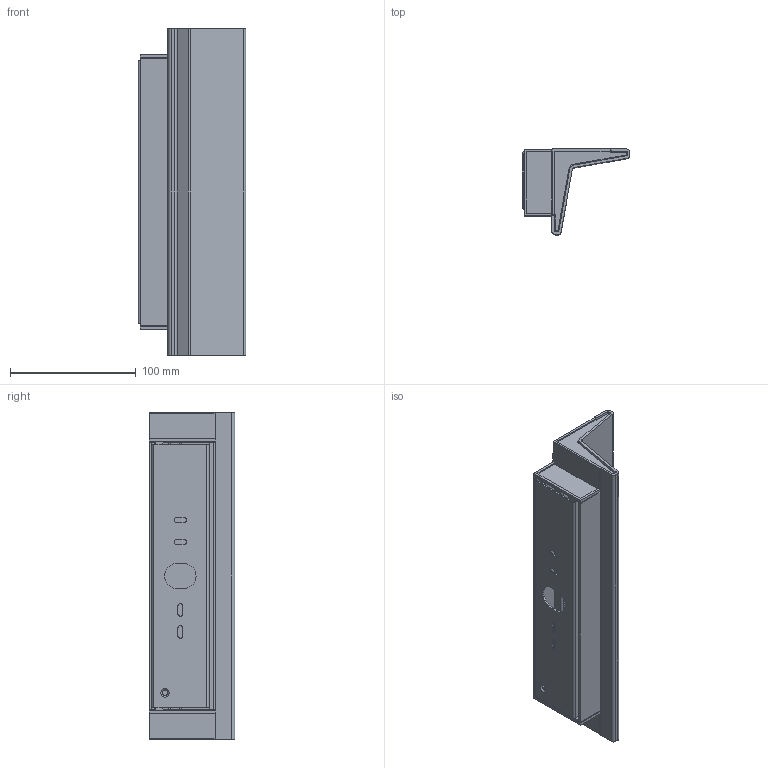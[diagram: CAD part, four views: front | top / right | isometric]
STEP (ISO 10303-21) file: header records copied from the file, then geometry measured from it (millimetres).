
FILE_DESCRIPTION (( 'STEP AP203' ), '1' );
FILE_NAME ('Zena_As.STEP', '2023-09-29T14:53:44', ( '' ), ( '' ), 'SwSTEP 2.0', 'SolidWorks 2016', '' );
FILE_SCHEMA (( 'CONFIG_CONTROL_DESIGN' ));
Length unit declared in the file: millimetre
Products named in the file (6): 051ZEN700200_Guancia sinistra; 051ZEN700300_Guancia destra; 052ZEN000600_Estruso diffusore; Zena_As; 051ZEN700100_Estruso corpo; 010ZEN000700_Staffa Parete
Assembly tree (5 placements, depth 2):
  Zena_As
    051ZEN700100_Estruso corpo
    052ZEN000600_Estruso diffusore
    051ZEN700200_Guancia sinistra
    051ZEN700300_Guancia destra
    010ZEN000700_Staffa Parete
Bounding box: 85.7 x 68 x 260 mm (x, y, z)
Volume: 202114.1 mm3; surface area: 194480 mm2
Topology: 5 solids, 5 shells, 1024 faces, 2731 edges, 1769 vertices
Faces by surface type: plane 575, cylinder 241, bspline 188, cone 16, torus 2, sphere 2
Entity records: 43207 total; most frequent: CARTESIAN_POINT 18808, ORIENTED_EDGE 5462, DIRECTION 4051, EDGE_CURVE 2731, VECTOR 1899, LINE 1899, VERTEX_POINT 1769, EDGE_LOOP 1112
